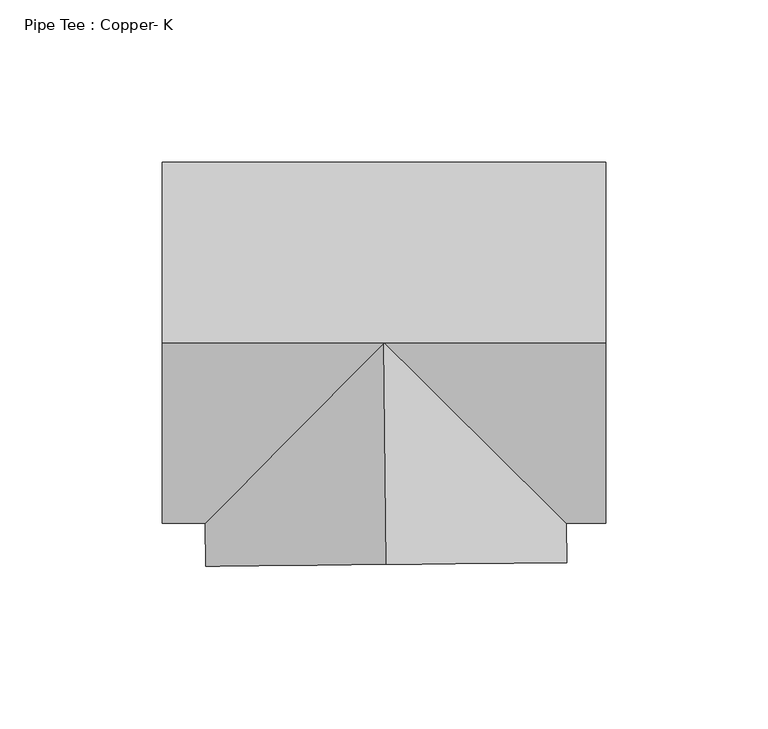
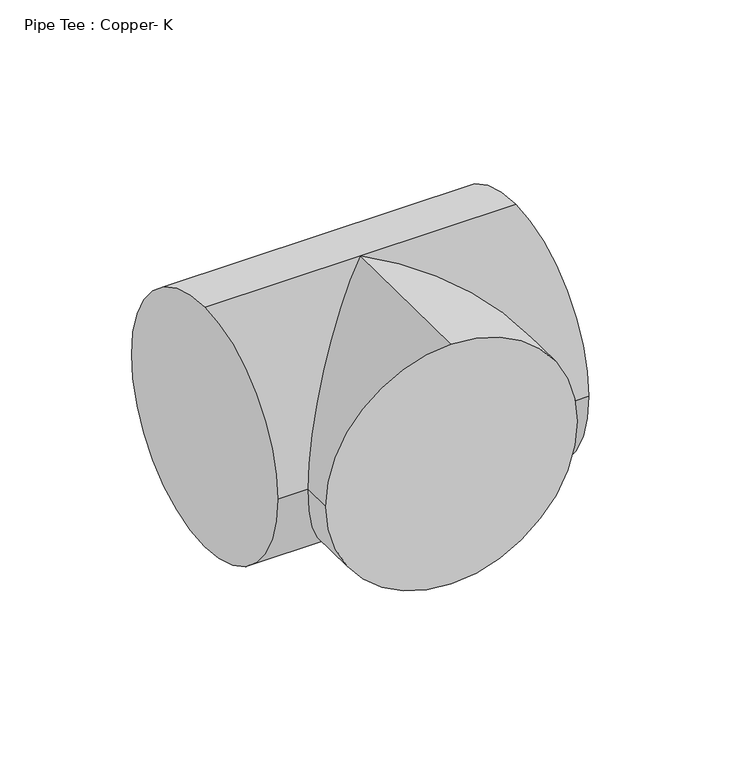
"""IFC4 building model written with IfcOpenShell, lengths in millimetres: pipe fitting geometry, Pipe Tee : Copper- K."""

import ifcopenshell
import ifcopenshell.guid

model = None  # the IFC model being written
_history = None  # IfcOwnerHistory: only IFC2X3 demands one
_inside = {}  # id of a spatial element -> (the spatial element, [elements in it])
_under = {}  # id of a project, library or spatial element -> (it, [spatial elements below it])
_declared = {}  # id of a project -> (the project, [libraries it declares])
_typed = {}  # id of a type object -> (the type object, [elements of that type])
_made_of = {}  # id of a material, layer set ... -> (it, [elements and type objects made of it])


def new_model(schema):
    """Start an empty IFC model of exactly this schema.

    Asked for "IFC4X3", IfcOpenShell would pick the latest addendum, in which some entities
    have other attributes; the version numbers below select the first issue.
    IFC2X3 requires an IfcOwnerHistory on every rooted entity: one is made here for all.
    """
    global model, _history
    if schema == "IFC4X3":
        model = ifcopenshell.file(schema_version=(4, 3, 0, 0))
    else:
        model = ifcopenshell.file(schema=schema)
    _inside.clear()
    _under.clear()
    _declared.clear()
    _typed.clear()
    _made_of.clear()
    _history = None
    if model.schema == "IFC2X3":
        org = make("IfcOrganization", Name="unknown")
        user = make(
            "IfcPersonAndOrganization",
            ThePerson=make("IfcPerson", FamilyName="unknown"),
            TheOrganization=org,
        )
        app = make(
            "IfcApplication",
            ApplicationDeveloper=org,
            Version="unknown",
            ApplicationFullName="unknown",
            ApplicationIdentifier="unknown",
        )
        _history = make(
            "IfcOwnerHistory",
            OwningUser=user,
            OwningApplication=app,
            ChangeAction="ADDED",
            CreationDate=0,
        )
    return model


def make(cls, **values):
    """One entity of the class cls with the attributes given. An attribute that is None is left unset."""
    return model.create_entity(
        cls, **{name: value for name, value in values.items() if value is not None}
    )


def rooted(cls, **values):
    """An entity with a GlobalId (a new one), such as an element, a storey or a relation."""
    return make(cls, GlobalId=ifcopenshell.guid.new(), OwnerHistory=_history, **values)


def si_unit(unit_type, name, prefix=None):
    """IfcSIUnit, for example si_unit("LENGTHUNIT", "METRE", prefix="MILLI")."""
    return make("IfcSIUnit", UnitType=unit_type, Prefix=prefix, Name=name)


def assignment(units):
    """IfcUnitAssignment: the units of a project."""
    return None if units is None else make("IfcUnitAssignment", Units=units)


def point(xyz):
    """IfcCartesianPoint."""
    return None if xyz is None else make("IfcCartesianPoint", Coordinates=xyz)


def direction(xyz):
    """IfcDirection."""
    return None if xyz is None else make("IfcDirection", DirectionRatios=xyz)


def frame(location, z_axis=None, x_axis=None):
    """IfcAxis2Placement3D, a coordinate frame: its origin and axes. An axis left out is left unset."""
    return make(
        "IfcAxis2Placement3D",
        Location=point(location),
        Axis=direction(z_axis),
        RefDirection=direction(x_axis),
    )


def origin():
    """The frame at (0, 0, 0) with its axes left unset."""
    return frame((0.0, 0.0, 0.0))


def place(relative_to, where):
    """IfcLocalPlacement: puts the frame where relative to a parent placement (None: the world)."""
    return make(
        "IfcLocalPlacement", PlacementRelTo=relative_to, RelativePlacement=where
    )


def context(
    kind, dimensions, precision=None, world=None, true_north=None, identifier=None
):
    """IfcGeometricRepresentationContext, for example the 3D "Model" context."""
    return make(
        "IfcGeometricRepresentationContext",
        ContextIdentifier=identifier,
        ContextType=kind,
        CoordinateSpaceDimension=dimensions,
        Precision=precision,
        WorldCoordinateSystem=world,
        TrueNorth=true_north,
    )


def project(units=None, contexts=None):
    """IfcProject with its units and contexts."""
    return rooted(
        "IfcProject",
        Name="project",
        RepresentationContexts=contexts,
        UnitsInContext=assignment(units),
    )


def spatial(cls, under=None, at=None, **own):
    """A site, building, storey or space (cls), placed at a placement, below another one or the project."""
    s = rooted(cls, ObjectPlacement=at, **own)
    if under is not None:
        _under.setdefault(under.id(), (under, []))[1].append(s)
    return s


def circle_curve(where, radius):
    """IfcCircle in the frame where."""
    return make("IfcCircle", Position=where, Radius=radius)


def ellipse_curve(where, semi_axis1, semi_axis2):
    """IfcEllipse in the frame where."""
    return make(
        "IfcEllipse", Position=where, SemiAxis1=semi_axis1, SemiAxis2=semi_axis2
    )


def shape(context_of_items, identifier, shape_type, items):
    """IfcShapeRepresentation: the items that make up one representation, for example the "Body"."""
    return make(
        "IfcShapeRepresentation",
        ContextOfItems=context_of_items,
        RepresentationIdentifier=identifier,
        RepresentationType=shape_type,
        Items=items,
    )


def source(mapping_origin, context_of_items, identifier, shape_type, items):
    """IfcRepresentationMap: a shape defined once, which mapped items show again and again."""
    return make(
        "IfcRepresentationMap",
        MappingOrigin=mapping_origin,
        MappedRepresentation=shape(context_of_items, identifier, shape_type, items),
    )


def transform(
    local_origin,
    x_axis=None,
    y_axis=None,
    z_axis=None,
    scale=None,
    scale2=None,
    scale3=None,
    uniform=True,
):
    """IfcCartesianTransformationOperator3D, or its non-uniform kind. x_axis, y_axis, z_axis: its Axis1, 2, 3."""
    if uniform:
        return make(
            "IfcCartesianTransformationOperator3D",
            Axis1=direction(x_axis),
            Axis2=direction(y_axis),
            LocalOrigin=point(local_origin),
            Scale=scale,
            Axis3=direction(z_axis),
        )
    return make(
        "IfcCartesianTransformationOperator3DnonUniform",
        Axis1=direction(x_axis),
        Axis2=direction(y_axis),
        LocalOrigin=point(local_origin),
        Scale=scale,
        Axis3=direction(z_axis),
        Scale2=scale2,
        Scale3=scale3,
    )


def mapped(mapping_source, mapping_target):
    """IfcMappedItem: shows the shape of a source again, moved by a transform."""
    return make(
        "IfcMappedItem", MappingSource=mapping_source, MappingTarget=mapping_target
    )


def made_of(thing, what):
    """Note that an element or type object is made of a material, layer set ...; save() writes the relation."""
    if what is not None:
        _made_of.setdefault(what.id(), (what, []))[1].append(thing)
    return thing


def element(
    cls,
    number,
    at=None,
    inside=None,
    cuts=None,
    type_object=None,
    material=None,
    context=None,
    identifier="Body",
    shape_type=None,
    held_by="IfcProductDefinitionShape",
    body=None,
    shapes=None,
    **own,
):
    """One element of the class cls, such as IfcWall. Its Tag is "e" and its number.

    at: its placement. inside: the storey or other place that contains it. cuts: it is an
    opening in that element (IfcRelVoidsElement). A single representation is given by context,
    identifier, shape_type and body (its items); several are given by shapes. held_by: the class
    of the entity that holds the representations. save() writes the other relations.
    """
    e = rooted(cls, Tag="e%d" % number, ObjectPlacement=at, **own)
    if body is not None:
        shapes = [shape(context, identifier, shape_type, body)]
    if shapes is not None:
        e.Representation = make(held_by, Representations=shapes)
    if inside is not None:
        _inside.setdefault(inside.id(), (inside, []))[1].append(e)
    if cuts is not None:
        rooted(
            "IfcRelVoidsElement", RelatingBuildingElement=cuts, RelatedOpeningElement=e
        )
    if type_object is not None:
        _typed.setdefault(type_object.id(), (type_object, []))[1].append(e)
    return made_of(e, material)


def aggregate(whole, parts):
    """IfcRelAggregates: a whole, such as a stair, and the parts it consists of."""
    return rooted("IfcRelAggregates", RelatingObject=whole, RelatedObjects=parts)


def save(model, path):
    """Write the relations noted so far, then the file.

    IfcRelAggregates (storeys below a building ...), IfcRelContainedInSpatialStructure (elements
    in a storey), IfcRelDefinesByType, IfcRelAssociatesMaterial and IfcRelDeclares: one each for
    every whole, place, type object, material and project.
    """
    for whole, parts in _under.values():
        aggregate(whole, parts)
    for where, things in _inside.values():
        rooted(
            "IfcRelContainedInSpatialStructure",
            RelatedElements=things,
            RelatingStructure=where,
        )
    for kind, things in _typed.values():
        rooted("IfcRelDefinesByType", RelatedObjects=things, RelatingType=kind)
    for what, things in _made_of.values():
        rooted("IfcRelAssociatesMaterial", RelatedObjects=things, RelatingMaterial=what)
    for by, libraries in _declared.values():
        rooted("IfcRelDeclares", RelatingContext=by, RelatedDefinitions=libraries)
    model.write(path)


def plane_surface(at):
    """IfcPlane: the flat surface through the origin of the frame at, square to its z axis."""
    return make("IfcPlane", Position=at)


def cylinder_surface(at, radius):
    """IfcCylindricalSurface: all points at the distance radius from the z axis of the frame at."""
    return make("IfcCylindricalSurface", Position=at, Radius=radius)


def advanced_brep(points, edges, surfaces, faces):
    """IfcAdvancedBrep: a solid bounded by faces that lie on surfaces and meet in shared edges.

    An edge is (start, end): straight between two places in points (the first is 0);
    or (start, end, curve); or (start, end, curve, False) where it runs against its curve.
    A face is (place in surfaces, loops), or (place, loops, False) where it looks against
    its surface's normal. A loop lists edges by number (the first is 1), with a minus sign
    where the edge is run from its end to its start. The first loop is the outer one.
    """
    corners = [point(p) for p in points]
    vertices = [make("IfcVertexPoint", VertexGeometry=c) for c in corners]
    made = []
    for start, end, *more in edges:
        made.append(
            make(
                "IfcEdgeCurve",
                EdgeStart=vertices[start],
                EdgeEnd=vertices[end],
                EdgeGeometry=more[0] if more else make("IfcPolyline", Points=[corners[start], corners[end]]),
                SameSense=more[1] if len(more) > 1 else True,
            )
        )
    hull = []
    for where, loops, *sense in faces:
        bounds = []
        for j, loop in enumerate(loops):
            ring = [make("IfcOrientedEdge", EdgeElement=made[abs(k) - 1], Orientation=k > 0) for k in loop]
            bounds.append(
                make(
                    "IfcFaceOuterBound" if j == 0 else "IfcFaceBound",
                    Bound=make("IfcEdgeLoop", EdgeList=ring),
                    Orientation=True,
                )
            )
        hull.append(make("IfcAdvancedFace", Bounds=bounds, FaceSurface=surfaces[where], SameSense=sense[0] if sense else True))
    return make("IfcAdvancedBrep", Outer=make("IfcClosedShell", CfsFaces=hull))


def pipe_tee_copper_k_82b5b23f(model_context):
    return source(origin(), model_context, "Body", "AdvancedBrep", [
        advanced_brep(
        [(-68.2625, 0.0, 55.5625), (-68.2625, 55.5625, 0.0), (-68.2625, 0.0, -55.5625), (-68.2625, -55.5625, 0.0), (68.2625, 0.0, 55.5625), (68.2625, -55.5625, 0.0), (68.2625, 0.0, -55.5625), (68.2625, 55.5625, 0.0), (0.0, 0.0, 55.5625), (0.0, 0.0, -55.5625), (-54.9867383, -55.5625, 0.0), (56.1442904, -55.5625, 0.0), (0.7110291, -68.2587968, 55.5625), (-54.8484567, -68.8375415, 0.0), (0.7110291, -68.2587968, -55.5625), (56.2705149, -67.6800522, 0.0)],
        [
            (0, 1, circle_curve(frame((-68.2625, 0.0, 0.0), z_axis=(-1.0, 0.0, 0.0), x_axis=(0.0, 1.0, 0.0)), 55.5625)),
            (1, 2, circle_curve(frame((-68.2625, 0.0, 0.0), z_axis=(-1.0, 0.0, 0.0), x_axis=(0.0, 1.0, 0.0)), 55.5625)),
            (2, 3, circle_curve(frame((-68.2625, 0.0, 0.0), z_axis=(-1.0, 0.0, 0.0), x_axis=(0.0, 1.0, 0.0)), 55.5625)),
            (3, 0, circle_curve(frame((-68.2625, 0.0, 0.0), z_axis=(-1.0, 0.0, 0.0), x_axis=(0.0, 1.0, 0.0)), 55.5625)),
            (4, 5, circle_curve(frame((68.2625, 0.0, 0.0), z_axis=(1.0, 0.0, 0.0), x_axis=(0.0, 1.0, 0.0)), 55.5625)),
            (5, 6, circle_curve(frame((68.2625, 0.0, 0.0), z_axis=(1.0, 0.0, 0.0), x_axis=(0.0, 1.0, 0.0)), 55.5625)),
            (6, 7, circle_curve(frame((68.2625, 0.0, 0.0), z_axis=(1.0, 0.0, 0.0), x_axis=(0.0, 1.0, 0.0)), 55.5625)),
            (7, 4, circle_curve(frame((68.2625, 0.0, 0.0), z_axis=(1.0, 0.0, 0.0), x_axis=(0.0, 1.0, 0.0)), 55.5625)),
            (0, 8),
            (8, 4),
            (7, 1),
            (6, 9),
            (9, 2),
            (9, 10, ellipse_curve(frame((0.0, 0.0, 0.0), z_axis=(-0.7107798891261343, 0.7034144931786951, 0.0), x_axis=(-0.7034144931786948, -0.7107798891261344, 0.0)), 78.1711763, 55.5625)),
            (10, 3),
            (5, 11),
            (11, 9, ellipse_curve(frame((0.0, 0.0, 0.0), z_axis=(0.703414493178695, 0.7107798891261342, 0.0), x_axis=(-0.7107798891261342, 0.7034144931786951, 0.0)), 78.9897003, 55.5625)),
            (10, 8, ellipse_curve(frame((0.0, 0.0, 0.0), z_axis=(-0.7107798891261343, 0.7034144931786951, 0.0), x_axis=(-0.7034144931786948, -0.7107798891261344, 0.0)), 78.1711763, 55.5625)),
            (8, 11, ellipse_curve(frame((0.0, 0.0, 0.0), z_axis=(0.703414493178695, 0.7107798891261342, 0.0), x_axis=(-0.7107798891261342, 0.7034144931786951, 0.0)), 78.9897003, 55.5625)),
            (12, 13, circle_curve(frame((0.7110291, -68.2587968, 0.0), z_axis=(0.010416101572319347, -0.9999457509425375, 0.0), x_axis=(0.9999457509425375, 0.010416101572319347, 0.0)), 55.5625)),
            (13, 14, circle_curve(frame((0.7110291, -68.2587968, 0.0), z_axis=(0.010416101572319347, -0.9999457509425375, 0.0), x_axis=(0.9999457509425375, 0.010416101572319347, 0.0)), 55.5625)),
            (14, 15, circle_curve(frame((0.7110291, -68.2587968, 0.0), z_axis=(0.010416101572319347, -0.9999457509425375, 0.0), x_axis=(0.9999457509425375, 0.010416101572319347, 0.0)), 55.5625)),
            (15, 12, circle_curve(frame((0.7110291, -68.2587968, 0.0), z_axis=(0.010416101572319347, -0.9999457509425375, 0.0), x_axis=(0.9999457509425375, 0.010416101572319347, 0.0)), 55.5625)),
            (15, 11),
            (8, 12),
            (14, 9),
            (13, 10),
        ],
        [
            plane_surface(frame((-68.2625, 0.0, 0.0), z_axis=(-1.0, 0.0, 0.0), x_axis=(0.0, 0.0, 1.0))),
            plane_surface(frame((68.2625, 0.0, 0.0), z_axis=(1.0, 0.0, 0.0), x_axis=(0.0, 0.0, 1.0))),
            cylinder_surface(frame((-68.2625, 0.0, 0.0), z_axis=(-1.0, 0.0, 0.0), x_axis=(0.0, 1.0, 0.0)), 55.5625),
            plane_surface(frame((0.7110291, -68.2587968, 0.0), z_axis=(0.010416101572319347, -0.9999457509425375, 0.0), x_axis=(0.0, 0.0, 1.0))),
            cylinder_surface(frame((0.0, 0.0, 0.0), z_axis=(-0.010416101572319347, 0.9999457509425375, 0.0), x_axis=(0.9999457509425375, 0.010416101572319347, 0.0)), 55.5625),
        ],
        [
            (0, [[1, 2, 3, 4]]),
            (1, [[5, 6, 7, 8]]),
            (2, [[-1, 9, 10, -8, 11]]),
            (2, [[-2, -11, -7, 12, 13]]),
            (2, [[-3, -13, 14, 15]]),
            (2, [[-6, 16, 17, -12]]),
            (2, [[-4, -15, 18, -9]]),
            (2, [[-5, -10, 19, -16]]),
            (3, [[20, 21, 22, 23]]),
            (4, [[-23, 24, -19, 25]]),
            (4, [[-22, 26, -17, -24]]),
            (4, [[-21, 27, -14, -26]]),
            (4, [[-20, -25, -18, -27]]),
        ],
    ),
        advanced_brep(
        [(-68.2625, 0.0, 55.5625), (-68.2625, 55.5625, 0.0), (-68.2625, 0.0, -55.5625), (-68.2625, -55.5625, 0.0), (68.2625, 0.0, 55.5625), (68.2625, -55.5625, 0.0), (68.2625, 0.0, -55.5625), (68.2625, 55.5625, 0.0), (0.0, 0.0, 55.5625), (0.0, 0.0, -55.5625), (-54.9867383, -55.5625, 0.0), (56.1442904, -55.5625, 0.0), (0.7110291, -68.2587968, 55.5625), (-54.8484567, -68.8375415, 0.0), (0.7110291, -68.2587968, -55.5625), (56.2705149, -67.6800522, 0.0)],
        [
            (0, 1, circle_curve(frame((-68.2625, 0.0, 0.0), z_axis=(-1.0, 0.0, 0.0), x_axis=(0.0, 1.0, 0.0)), 55.5625)),
            (1, 2, circle_curve(frame((-68.2625, 0.0, 0.0), z_axis=(-1.0, 0.0, 0.0), x_axis=(0.0, 1.0, 0.0)), 55.5625)),
            (2, 3, circle_curve(frame((-68.2625, 0.0, 0.0), z_axis=(-1.0, 0.0, 0.0), x_axis=(0.0, 1.0, 0.0)), 55.5625)),
            (3, 0, circle_curve(frame((-68.2625, 0.0, 0.0), z_axis=(-1.0, 0.0, 0.0), x_axis=(0.0, 1.0, 0.0)), 55.5625)),
            (4, 5, circle_curve(frame((68.2625, 0.0, 0.0), z_axis=(1.0, 0.0, 0.0), x_axis=(0.0, 1.0, 0.0)), 55.5625)),
            (5, 6, circle_curve(frame((68.2625, 0.0, 0.0), z_axis=(1.0, 0.0, 0.0), x_axis=(0.0, 1.0, 0.0)), 55.5625)),
            (6, 7, circle_curve(frame((68.2625, 0.0, 0.0), z_axis=(1.0, 0.0, 0.0), x_axis=(0.0, 1.0, 0.0)), 55.5625)),
            (7, 4, circle_curve(frame((68.2625, 0.0, 0.0), z_axis=(1.0, 0.0, 0.0), x_axis=(0.0, 1.0, 0.0)), 55.5625)),
            (0, 8),
            (8, 4),
            (7, 1),
            (6, 9),
            (9, 2),
            (9, 10, ellipse_curve(frame((0.0, 0.0, 0.0), z_axis=(-0.7107798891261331, 0.7034144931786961, 0.0), x_axis=(-0.7034144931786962, -0.710779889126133, 0.0)), 78.1711763, 55.5625)),
            (10, 3),
            (5, 11),
            (11, 9, ellipse_curve(frame((0.0, 0.0, 0.0), z_axis=(0.7034144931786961, 0.7107798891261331, 0.0), x_axis=(-0.7107798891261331, 0.7034144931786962, 0.0)), 78.9897003, 55.5625)),
            (10, 8, ellipse_curve(frame((0.0, 0.0, 0.0), z_axis=(-0.7107798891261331, 0.7034144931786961, 0.0), x_axis=(-0.7034144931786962, -0.710779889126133, 0.0)), 78.1711763, 55.5625)),
            (8, 11, ellipse_curve(frame((0.0, 0.0, 0.0), z_axis=(0.7034144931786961, 0.7107798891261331, 0.0), x_axis=(-0.7107798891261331, 0.7034144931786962, 0.0)), 78.9897003, 55.5625)),
            (12, 13, circle_curve(frame((0.7110291, -68.2587968, 0.0), z_axis=(0.010416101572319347, -0.9999457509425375, 0.0), x_axis=(0.9999457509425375, 0.010416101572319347, 0.0)), 55.5625)),
            (13, 14, circle_curve(frame((0.7110291, -68.2587968, 0.0), z_axis=(0.010416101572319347, -0.9999457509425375, 0.0), x_axis=(0.9999457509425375, 0.010416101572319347, 0.0)), 55.5625)),
            (14, 15, circle_curve(frame((0.7110291, -68.2587968, 0.0), z_axis=(0.010416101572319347, -0.9999457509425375, 0.0), x_axis=(0.9999457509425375, 0.010416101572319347, 0.0)), 55.5625)),
            (15, 12, circle_curve(frame((0.7110291, -68.2587968, 0.0), z_axis=(0.010416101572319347, -0.9999457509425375, 0.0), x_axis=(0.9999457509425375, 0.010416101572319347, 0.0)), 55.5625)),
            (15, 11),
            (8, 12),
            (14, 9),
            (13, 10),
        ],
        [
            plane_surface(frame((-68.2625, 0.0, 0.0), z_axis=(-1.0, 0.0, 0.0), x_axis=(0.0, 0.0, 1.0))),
            plane_surface(frame((68.2625, 0.0, 0.0), z_axis=(1.0, 0.0, 0.0), x_axis=(0.0, 0.0, 1.0))),
            cylinder_surface(frame((-68.2625, 0.0, 0.0), z_axis=(-1.0, 0.0, 0.0), x_axis=(0.0, 1.0, 0.0)), 55.5625),
            plane_surface(frame((0.7110291, -68.2587968, 0.0), z_axis=(0.010416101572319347, -0.9999457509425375, 0.0), x_axis=(0.0, 0.0, 1.0))),
            cylinder_surface(frame((0.0, 0.0, 0.0), z_axis=(-0.010416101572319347, 0.9999457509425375, 0.0), x_axis=(0.9999457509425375, 0.010416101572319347, 0.0)), 55.5625),
        ],
        [
            (0, [[1, 2, 3, 4]]),
            (1, [[5, 6, 7, 8]]),
            (2, [[-1, 9, 10, -8, 11]]),
            (2, [[-2, -11, -7, 12, 13]]),
            (2, [[-3, -13, 14, 15]]),
            (2, [[-6, 16, 17, -12]]),
            (2, [[-4, -15, 18, -9]]),
            (2, [[-5, -10, 19, -16]]),
            (3, [[20, 21, 22, 23]]),
            (4, [[-23, 24, -19, 25]]),
            (4, [[-22, 26, -17, -24]]),
            (4, [[-21, 27, -14, -26]]),
            (4, [[-20, -25, -18, -27]]),
        ],
    ),
    ])


if __name__ == "__main__":
    model = new_model("IFC4")
    model_context = context("Model", 3, world=origin())
    ifc_project = project(units=[si_unit("LENGTHUNIT", "METRE", prefix="MILLI")], contexts=[model_context])
    site = spatial("IfcSite", under=ifc_project)
    building = spatial("IfcBuilding", under=site)
    placement = place(None, origin())
    pipe_tee_copper_k_shape = pipe_tee_copper_k_82b5b23f(model_context)
    element("IfcPipeFitting", 1, ObjectType="Pipe Tee : Copper- K", at=placement, inside=building, context=model_context, shape_type="MappedRepresentation", body=[
        mapped(pipe_tee_copper_k_shape, transform((0.0, 0.0, 0.0), x_axis=(1.0, 0.0, 0.0), y_axis=(0.0, 1.0, 0.0), z_axis=(0.0, 0.0, 1.0))),
    ])
    save(model, "model.ifc")
